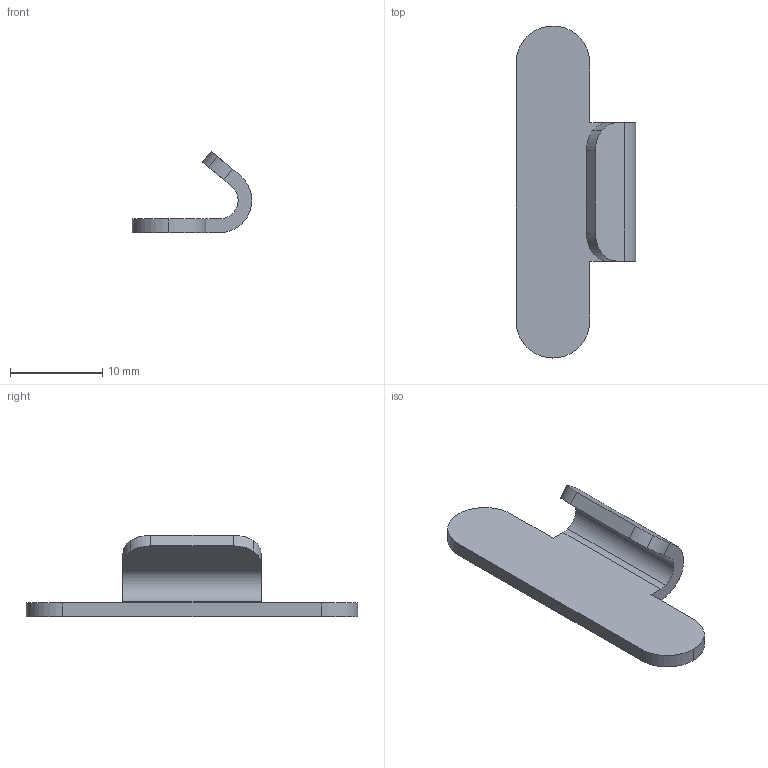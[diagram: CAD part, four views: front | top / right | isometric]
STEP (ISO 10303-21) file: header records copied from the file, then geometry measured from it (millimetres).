
FILE_DESCRIPTION((''),'2;1');
FILE_NAME('1013.00-5-10.stp','2023-10-09T12:39:15',(''),(''),'Mechanical Desktop 2006','Mechanical Desktop 2006',', , ');
FILE_SCHEMA(('CONFIG_CONTROL_DESIGN'));
Length unit declared in the file: millimetre
Products named in the file (2): 1013.__-5-10; TEIL1
Assembly tree (1 placements, depth 2):
  1013.__-5-10
    TEIL1
Bounding box: 13 x 36 x 8.82 mm (x, y, z)
Volume: 683.1 mm3; surface area: 1065.6 mm2
Topology: 1 solids, 1 shells, 22 faces, 60 edges, 40 vertices
Faces by surface type: cylinder 12, plane 10
Entity records: 817 total; most frequent: DIRECTION 132, CARTESIAN_POINT 124, ORIENTED_EDGE 120, EDGE_CURVE 60, AXIS2_PLACEMENT_3D 48, VERTEX_POINT 40, VECTOR 36, LINE 36
